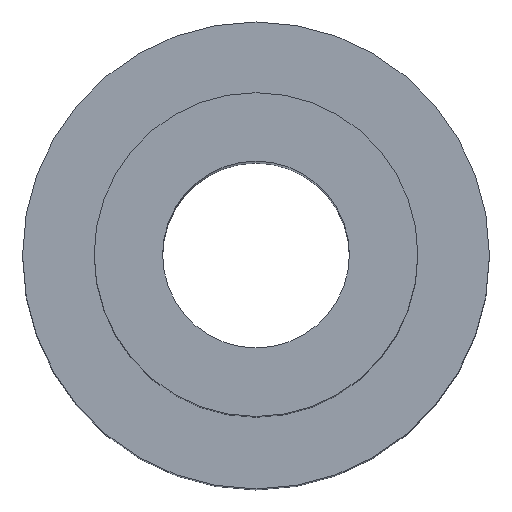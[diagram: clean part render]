
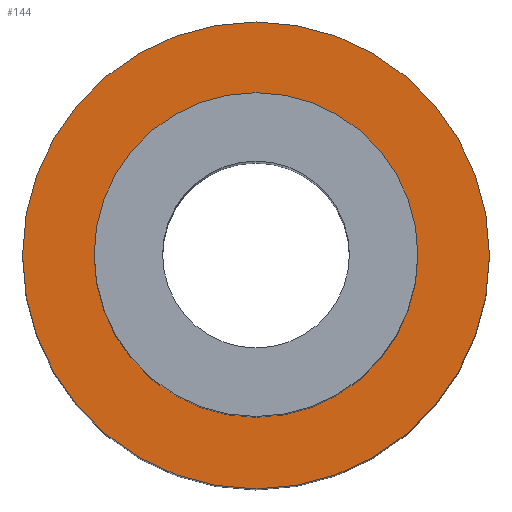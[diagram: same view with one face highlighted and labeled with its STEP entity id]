
A CAD part, top view. The second image highlights one B-rep face of the part: STEP entity #144.
In plain terms, the highlighted planar face has unit normal (0, 0, 1).
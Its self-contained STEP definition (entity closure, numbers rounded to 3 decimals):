
#24 = VERTEX_POINT('',#25);
#25 = CARTESIAN_POINT('',(7.5,0.,20.2));
#32 = CYLINDRICAL_SURFACE('',#33,7.5);
#33 = AXIS2_PLACEMENT_3D('',#34,#35,#36);
#34 = CARTESIAN_POINT('',(0.,0.,0.));
#35 = DIRECTION('',(-0.,-0.,-1.));
#36 = DIRECTION('',(1.,0.,0.));
#51 = EDGE_CURVE('',#24,#24,#52,.T.);
#52 = SURFACE_CURVE('',#53,(#58,#65),.PCURVE_S1.);
#53 = CIRCLE('',#54,7.5);
#54 = AXIS2_PLACEMENT_3D('',#55,#56,#57);
#55 = CARTESIAN_POINT('',(0.,0.,20.2));
#56 = DIRECTION('',(0.,0.,1.));
#57 = DIRECTION('',(1.,0.,0.));
#58 = PCURVE('',#32,#59);
#59 = DEFINITIONAL_REPRESENTATION('',(#60),#64);
#60 = LINE('',#61,#62);
#61 = CARTESIAN_POINT('',(-0.,-20.2));
#62 = VECTOR('',#63,1.);
#63 = DIRECTION('',(-1.,0.));
#64 = ( GEOMETRIC_REPRESENTATION_CONTEXT(2) 
PARAMETRIC_REPRESENTATION_CONTEXT() REPRESENTATION_CONTEXT('2D SPACE',''
  ) );
#65 = PCURVE('',#66,#71);
#66 = PLANE('',#67);
#67 = AXIS2_PLACEMENT_3D('',#68,#69,#70);
#68 = CARTESIAN_POINT('',(0.,0.,20.2));
#69 = DIRECTION('',(0.,0.,1.));
#70 = DIRECTION('',(1.,0.,-0.));
#71 = DEFINITIONAL_REPRESENTATION('',(#72),#76);
#72 = CIRCLE('',#73,7.5);
#73 = AXIS2_PLACEMENT_2D('',#74,#75);
#74 = CARTESIAN_POINT('',(0.,0.));
#75 = DIRECTION('',(1.,0.));
#76 = ( GEOMETRIC_REPRESENTATION_CONTEXT(2) 
PARAMETRIC_REPRESENTATION_CONTEXT() REPRESENTATION_CONTEXT('2D SPACE',''
  ) );
#144 = ADVANCED_FACE('',(#145,#148),#66,.T.);
#145 = FACE_BOUND('',#146,.T.);
#146 = EDGE_LOOP('',(#147));
#147 = ORIENTED_EDGE('',*,*,#51,.T.);
#148 = FACE_BOUND('',#149,.T.);
#149 = EDGE_LOOP('',(#150));
#150 = ORIENTED_EDGE('',*,*,#151,.F.);
#151 = EDGE_CURVE('',#152,#152,#154,.T.);
#152 = VERTEX_POINT('',#153);
#153 = CARTESIAN_POINT('',(5.2,0.,20.2));
#154 = SURFACE_CURVE('',#155,(#160,#167),.PCURVE_S1.);
#155 = CIRCLE('',#156,5.2);
#156 = AXIS2_PLACEMENT_3D('',#157,#158,#159);
#157 = CARTESIAN_POINT('',(0.,0.,20.2));
#158 = DIRECTION('',(0.,0.,1.));
#159 = DIRECTION('',(1.,0.,0.));
#160 = PCURVE('',#66,#161);
#161 = DEFINITIONAL_REPRESENTATION('',(#162),#166);
#162 = CIRCLE('',#163,5.2);
#163 = AXIS2_PLACEMENT_2D('',#164,#165);
#164 = CARTESIAN_POINT('',(0.,0.));
#165 = DIRECTION('',(1.,0.));
#166 = ( GEOMETRIC_REPRESENTATION_CONTEXT(2) 
PARAMETRIC_REPRESENTATION_CONTEXT() REPRESENTATION_CONTEXT('2D SPACE',''
  ) );
#167 = PCURVE('',#168,#173);
#168 = CYLINDRICAL_SURFACE('',#169,5.2);
#169 = AXIS2_PLACEMENT_3D('',#170,#171,#172);
#170 = CARTESIAN_POINT('',(0.,0.,20.2));
#171 = DIRECTION('',(-0.,-0.,-1.));
#172 = DIRECTION('',(1.,0.,0.));
#173 = DEFINITIONAL_REPRESENTATION('',(#174),#178);
#174 = LINE('',#175,#176);
#175 = CARTESIAN_POINT('',(-0.,0.));
#176 = VECTOR('',#177,1.);
#177 = DIRECTION('',(-1.,0.));
#178 = ( GEOMETRIC_REPRESENTATION_CONTEXT(2) 
PARAMETRIC_REPRESENTATION_CONTEXT() REPRESENTATION_CONTEXT('2D SPACE',''
  ) );
